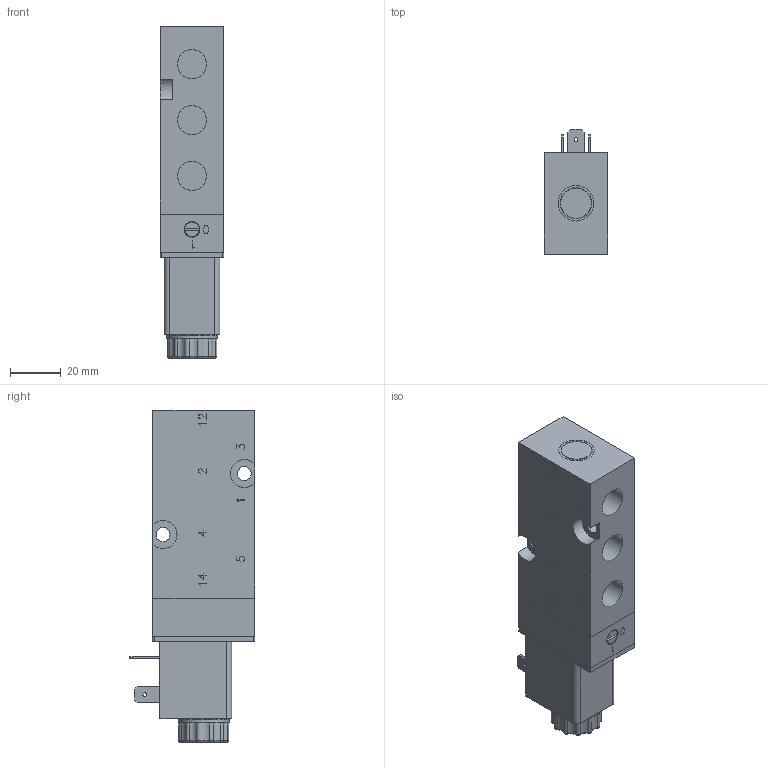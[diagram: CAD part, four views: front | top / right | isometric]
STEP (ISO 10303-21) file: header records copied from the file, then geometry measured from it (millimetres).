
FILE_DESCRIPTION (( 'STEP AP214' ), '1' );
FILE_NAME ('ICKN-55-510-HN-F12_Airtec.step', '2019-01-08T09:18:04', ( '' ), ( '' ), 'SwSTEP 2.0', 'SolidWorks 2010', '' );
FILE_SCHEMA (( 'AUTOMOTIVE_DESIGN' ));
Length unit declared in the file: millimetre
Products named in the file (3): Volumenkörper6; Volumenkörper1; ICKN-55-510-HN-F12_Airtec
Assembly tree (2 placements, depth 2):
  ICKN-55-510-HN-F12_Airtec
    Volumenkörper6
    Volumenkörper1
Bounding box: 25 x 49.2 x 130.6 mm (x, y, z)
Volume: 106020.8 mm3; surface area: 24646.7 mm2
Topology: 2 solids, 2 shells, 570 faces, 1495 edges, 971 vertices
Faces by surface type: plane 356, cylinder 86, cone 65, torus 49, bspline 14
Full cylindrical faces by diameter (mm): 1.5 x3, 2.459 x1, 5.1 x4, 5.5 x3, 7.5 x4, 8 x1, 8.15 x1, 9.04 x2, 9.1 x1, 11.445 x3, 12 x1, 14 x1, 15 x1, 16.6 x1, 20 x3
Entity records: 22096 total; most frequent: CARTESIAN_POINT 4716, ORIENTED_EDGE 2864, DIRECTION 2744, EDGE_CURVE 1432, VERTEX_POINT 956, LINE 926, VECTOR 926, AXIS2_PLACEMENT_3D 909
